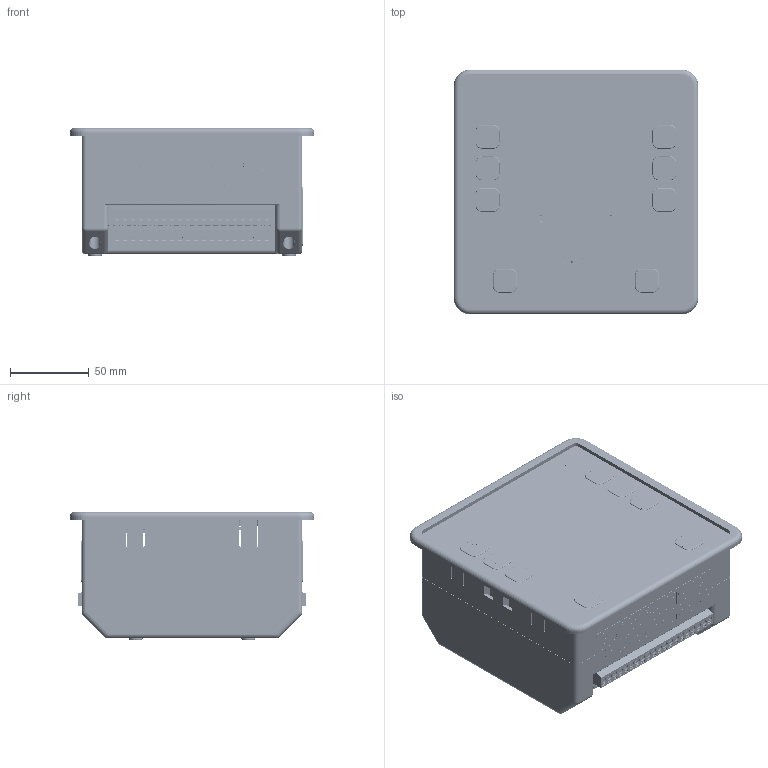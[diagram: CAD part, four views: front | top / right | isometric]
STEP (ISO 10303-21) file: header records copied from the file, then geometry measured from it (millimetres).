
FILE_DESCRIPTION (( 'STEP AP214' ), '1' );
FILE_NAME ('ﾀﾂﾐ YON AFS-233.STEP', '2021-07-28T09:39:46', ( '' ), ( '' ), 'SwSTEP 2.0', 'SolidWorks 2020', '' );
FILE_SCHEMA (( 'AUTOMOTIVE_DESIGN' ));
Length unit declared in the file: millimetre
Products named in the file (1): ﾀﾂﾐ YON AFS-233
Bounding box: 155 x 155 x 81.2 mm (x, y, z)
Volume: 368963 mm3; surface area: 364825.9 mm2
Topology: 139 solids, 140 shells, 23653 faces, 61907 edges, 39684 vertices
Faces by surface type: plane 14474, bspline 4113, cylinder 3184, torus 789, cone 638, sphere 455
Entity records: 936086 total; most frequent: CARTESIAN_POINT 325820, ORIENTED_EDGE 122966, DIRECTION 101110, EDGE_CURVE 61483, VECTOR 43614, LINE 43614, VERTEX_POINT 39680, AXIS2_PLACEMENT_3D 28748
